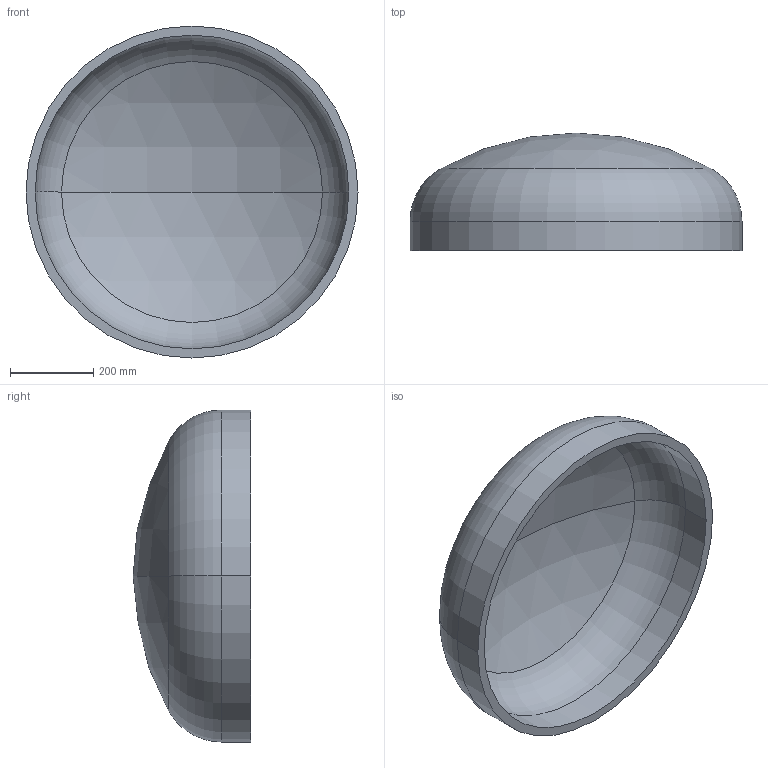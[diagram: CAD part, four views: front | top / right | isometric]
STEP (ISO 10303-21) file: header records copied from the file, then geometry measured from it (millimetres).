
FILE_DESCRIPTION (( 'STEP AP203' ), '1' );
FILE_NAME ('DIN 28013 Korbbogenform_-_Boden DIN 28013 - 800 x 70 - I - s=22.step', '2016-07-01T08:14:02', ( '' ), ( '' ), 'SwSTEP 2.0', 'SolidWorks 2013', '' );
FILE_SCHEMA (( 'CONFIG_CONTROL_DESIGN' ));
Length unit declared in the file: millimetre
Products named in the file (1): DIN 28013 Korbbogenform_-_Boden DIN 28013 - 800 x 70 - I - s=22
Bounding box: 800 x 283.43 x 800 mm (x, y, z)
Volume: 18581439.1 mm3; surface area: 1744006.4 mm2
Topology: 1 solids, 1 shells, 13 faces, 24 edges, 14 vertices
Faces by surface type: torus 4, cylinder 4, sphere 4, plane 1
Entity records: 407 total; most frequent: DIRECTION 72, CARTESIAN_POINT 52, ORIENTED_EDGE 48, AXIS2_PLACEMENT_3D 34, EDGE_CURVE 24, CIRCLE 20, EDGE_LOOP 14, VERTEX_POINT 14
